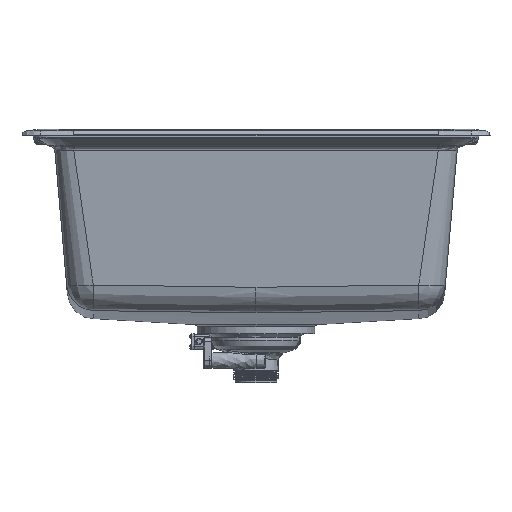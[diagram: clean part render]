
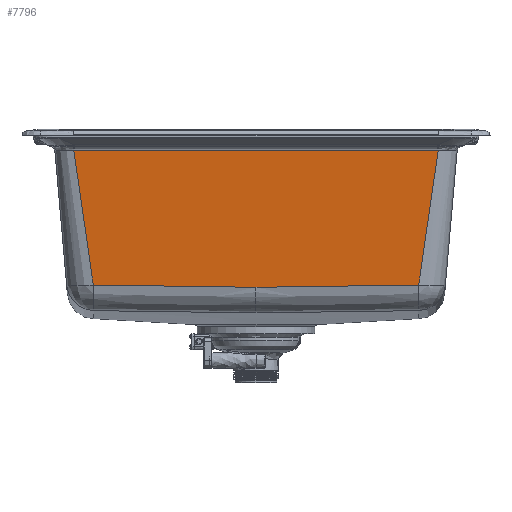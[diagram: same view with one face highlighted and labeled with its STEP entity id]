
A CAD part, front view. The second image highlights one B-rep face of the part: STEP entity #7796.
In plain terms, the highlighted planar face has unit normal (0, -0.996, -0.087).
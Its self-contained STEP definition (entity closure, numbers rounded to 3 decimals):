
#198=(
BOUNDED_CURVE()
B_SPLINE_CURVE(3,(#97614,#97615,#97616,#97617,#97618,#97619,#97620,#97621),
 .UNSPECIFIED.,.F.,.F.)
B_SPLINE_CURVE_WITH_KNOTS((4,2,2,4),(0.,86.215,172.472,
173.801),.UNSPECIFIED.)
CURVE()
GEOMETRIC_REPRESENTATION_ITEM()
RATIONAL_B_SPLINE_CURVE((1.,1.,1.,1.,1.,1.,1.,1.))
REPRESENTATION_ITEM('')
);
#200=(
BOUNDED_CURVE()
B_SPLINE_CURVE(3,(#97628,#97629,#97630,#97631,#97632,#97633,#97634,#97635),
 .UNSPECIFIED.,.F.,.F.)
B_SPLINE_CURVE_WITH_KNOTS((4,2,2,4),(0.,1.33,87.586,
173.801),.UNSPECIFIED.)
CURVE()
GEOMETRIC_REPRESENTATION_ITEM()
RATIONAL_B_SPLINE_CURVE((1.,1.,1.,1.,1.,1.,1.,1.))
REPRESENTATION_ITEM('')
);
#7796=ADVANCED_FACE('',(#10411),#44166,.T.);
#10411=FACE_OUTER_BOUND('',#13095,.T.);
#13095=EDGE_LOOP('',(#20671,#20672,#20673,#20674,#20675,#20676,#20677));
#20671=ORIENTED_EDGE('',*,*,#31416,.T.);
#20672=ORIENTED_EDGE('',*,*,#31417,.F.);
#20673=ORIENTED_EDGE('',*,*,#31395,.F.);
#20674=ORIENTED_EDGE('',*,*,#31397,.F.);
#20675=ORIENTED_EDGE('',*,*,#31369,.F.);
#20676=ORIENTED_EDGE('',*,*,#31418,.T.);
#20677=ORIENTED_EDGE('',*,*,#31419,.T.);
#31369=EDGE_CURVE('',#41218,#41219,#37178,.T.);
#31395=EDGE_CURVE('',#41233,#41216,#198,.T.);
#31397=EDGE_CURVE('',#41219,#41233,#200,.T.);
#31416=EDGE_CURVE('',#41240,#41214,#37199,.T.);
#31417=EDGE_CURVE('',#41216,#41214,#37200,.T.);
#31418=EDGE_CURVE('',#41218,#41241,#37201,.T.);
#31419=EDGE_CURVE('',#41241,#41240,#37202,.T.);
#37178=B_SPLINE_CURVE_WITH_KNOTS('',1,(#97371,#97372),.UNSPECIFIED.,.F.,
 .F.,(2,2),(0.,145.364),.UNSPECIFIED.);
#37199=B_SPLINE_CURVE_WITH_KNOTS('',1,(#97789,#97790),.UNSPECIFIED.,.F.,
 .F.,(2,2),(0.,0.38),.UNSPECIFIED.);
#37200=B_SPLINE_CURVE_WITH_KNOTS('',1,(#97791,#97792),.UNSPECIFIED.,.F.,
 .F.,(2,2),(-145.364,0.),.UNSPECIFIED.);
#37201=B_SPLINE_CURVE_WITH_KNOTS('',1,(#97793,#97794),.UNSPECIFIED.,.F.,
 .F.,(2,2),(0.,0.38),.UNSPECIFIED.);
#37202=B_SPLINE_CURVE_WITH_KNOTS('',1,(#97795,#97796),.UNSPECIFIED.,.F.,
 .F.,(2,2),(0.,388.469),.UNSPECIFIED.);
#41214=VERTEX_POINT('',#94776);
#41216=VERTEX_POINT('',#94778);
#41218=VERTEX_POINT('',#94780);
#41219=VERTEX_POINT('',#94781);
#41233=VERTEX_POINT('',#94795);
#41240=VERTEX_POINT('',#94802);
#41241=VERTEX_POINT('',#94803);
#44166=PLANE('',#46739);
#46739=AXIS2_PLACEMENT_3D('',#83679,#51678,$);
#51678=DIRECTION('',(0.,-0.996,-0.087));
#83679=CARTESIAN_POINT('',(233.658,-435.837,-176.568));
#94776=CARTESIAN_POINT('',(-194.615,-449.876,-16.105));
#94778=CARTESIAN_POINT('',(-173.778,-437.337,-159.421));
#94780=CARTESIAN_POINT('',(194.615,-449.876,-16.105));
#94781=CARTESIAN_POINT('',(173.778,-437.337,-159.421));
#94795=CARTESIAN_POINT('',(0.,-437.124,-161.862));
#94802=CARTESIAN_POINT('',(-194.235,-449.876,-16.106));
#94803=CARTESIAN_POINT('',(194.235,-449.876,-16.106));
#97371=CARTESIAN_POINT('',(194.615,-449.876,-16.105));
#97372=CARTESIAN_POINT('',(173.778,-437.337,-159.421));
#97614=CARTESIAN_POINT('',(0.,-437.124,-161.862));
#97615=CARTESIAN_POINT('',(-28.738,-437.124,-161.862));
#97616=CARTESIAN_POINT('',(-57.476,-437.143,-161.643));
#97617=CARTESIAN_POINT('',(-114.96,-437.216,-160.813));
#97618=CARTESIAN_POINT('',(-143.706,-437.269,-160.205));
#97619=CARTESIAN_POINT('',(-172.891,-437.335,-159.444));
#97620=CARTESIAN_POINT('',(-173.335,-437.336,-159.433));
#97621=CARTESIAN_POINT('',(-173.778,-437.337,-159.421));
#97628=CARTESIAN_POINT('',(173.778,-437.337,-159.421));
#97629=CARTESIAN_POINT('',(173.335,-437.336,-159.433));
#97630=CARTESIAN_POINT('',(172.891,-437.335,-159.444));
#97631=CARTESIAN_POINT('',(143.706,-437.269,-160.205));
#97632=CARTESIAN_POINT('',(114.96,-437.216,-160.813));
#97633=CARTESIAN_POINT('',(57.476,-437.143,-161.643));
#97634=CARTESIAN_POINT('',(28.738,-437.124,-161.862));
#97635=CARTESIAN_POINT('',(0.,-437.124,-161.862));
#97789=CARTESIAN_POINT('',(-194.235,-449.876,-16.106));
#97790=CARTESIAN_POINT('',(-194.615,-449.876,-16.105));
#97791=CARTESIAN_POINT('',(-173.778,-437.337,-159.421));
#97792=CARTESIAN_POINT('',(-194.615,-449.876,-16.105));
#97793=CARTESIAN_POINT('',(194.615,-449.876,-16.105));
#97794=CARTESIAN_POINT('',(194.235,-449.876,-16.106));
#97795=CARTESIAN_POINT('',(194.235,-449.876,-16.106));
#97796=CARTESIAN_POINT('',(-194.235,-449.876,-16.106));
